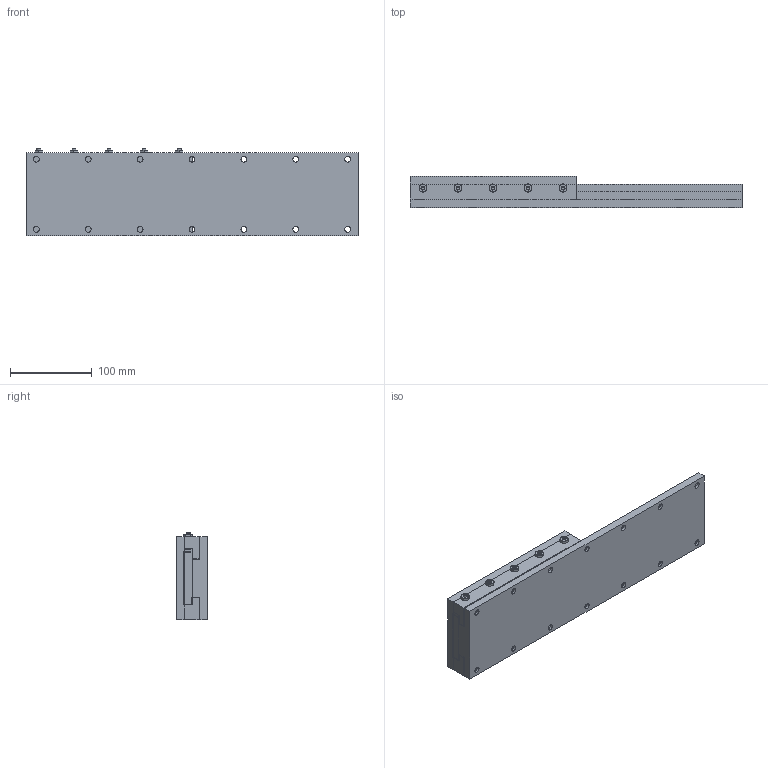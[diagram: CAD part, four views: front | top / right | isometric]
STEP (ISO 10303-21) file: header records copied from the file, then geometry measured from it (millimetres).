
FILE_DESCRIPTION (( 'STEP AP214' ), '1' );
FILE_NAME ('SW04-SL08-BL16.STEP', '2010-10-04T17:49:04', ( ' ' ), ( '' ), 'SwSTEP 2.0', 'SolidWorks 2010', '' );
FILE_SCHEMA (( 'AUTOMOTIVE_DESIGN' ));
Length unit declared in the file: inch
Products named in the file (11): Gen2 BASE_04x16 BASE; Gen2 Baseplate_04x16 BASE; _MSHXNUT_MSHXNUT 0.190-32-D-N; Gen2 SADDLE_04x08 SADDLE; Gen2 Hardplate_04x16 HPLATE; _SSCUPSOC_SSCUPSKT 0.19-32x0.875-HX-N; Gen2 Top plate_04x08 TPLATE; Gen2 Bar_04x08 BAR; Gen2 Adj Gib_04x08 ADJ GIB; Gen2 Gib_04x08 GIB; SW04-SL08-BL16
Assembly tree (18 placements, depth 3):
  SW04-SL08-BL16
    Gen2 BASE_04x16 BASE
      Gen2 Hardplate_04x16 HPLATE
      Gen2 Baseplate_04x16 BASE
    Gen2 SADDLE_04x08 SADDLE
      _SSCUPSOC_SSCUPSKT 0.19-32x0.875-HX-N  x5
      Gen2 Bar_04x08 BAR
      _MSHXNUT_MSHXNUT 0.190-32-D-N  x5
      Gen2 Gib_04x08 GIB
      Gen2 Adj Gib_04x08 ADJ GIB
      Gen2 Top plate_04x08 TPLATE
Bounding box: 406.4 x 38.1 x 107.16 mm (x, y, z)
Volume: 1174237.1 mm3; surface area: 304269.7 mm2
Topology: 21 solids, 21 shells, 401 faces, 900 edges, 555 vertices
Faces by surface type: plane 177, cylinder 114, cone 110
Entity records: 7363 total; most frequent: CARTESIAN_POINT 1217, DIRECTION 1184, ORIENTED_EDGE 1028, EDGE_CURVE 514, AXIS2_PLACEMENT_3D 446, VERTEX_POINT 335, EDGE_LOOP 293, LINE 292
